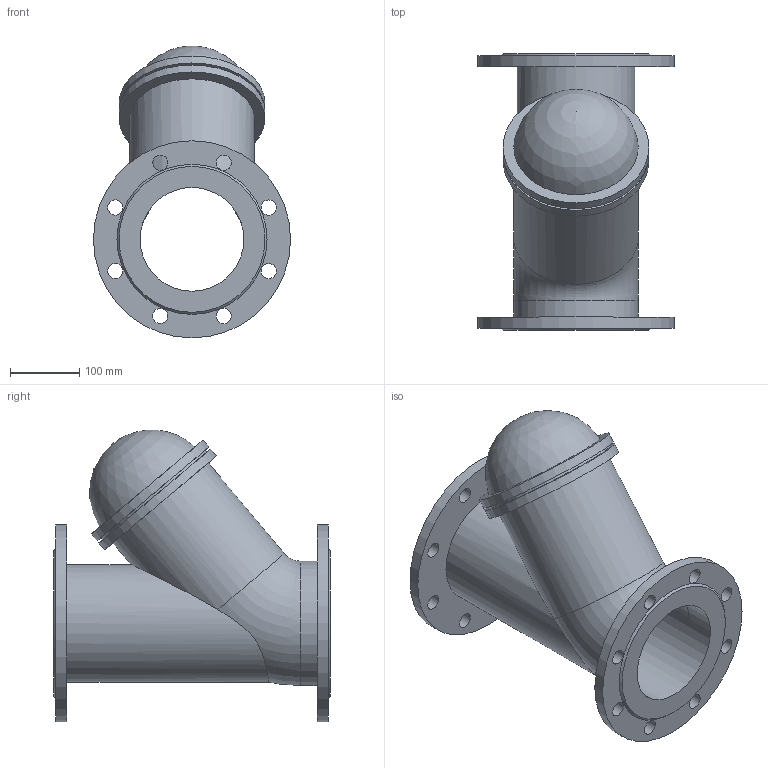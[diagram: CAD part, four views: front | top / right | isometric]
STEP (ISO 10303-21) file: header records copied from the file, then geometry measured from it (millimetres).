
FILE_DESCRIPTION(('STEP AP203'), '1');
FILE_NAME('Êëàïàí îáðàòíûé øàðîâîé ôëàíöåâûé 012F DN150', '', ('UNSPECIFIED'), ('UNSPECIFIED'), 'ASCON STEP Converter 1.6', 'ASCON Math Kernel', '');
FILE_SCHEMA(('CONFIG_CONTROL_DESIGN'));
Length unit declared in the file: millimetre
Bounding box: 285 x 400 x 421.89 mm (x, y, z)
Volume: 6748452.8 mm3; surface area: 809653.6 mm2
Topology: 1 solids, 1 shells, 44 faces, 105 edges, 70 vertices
Faces by surface type: cylinder 27, plane 12, torus 2, cone 2, sphere 1
Full cylindrical faces by diameter (mm): 22 x16, 150 x2, 170 x1, 180 x2, 197 x1, 211 x2, 285 x2
Entity records: 1985 total; most frequent: CARTESIAN_POINT 593, DIRECTION 216, ORIENTED_EDGE 146, EDGE_LOOP 116, AXIS2_PLACEMENT_3D 108, EDGE_CURVE 73, VERTEX_POINT 69, CIRCLE 63
